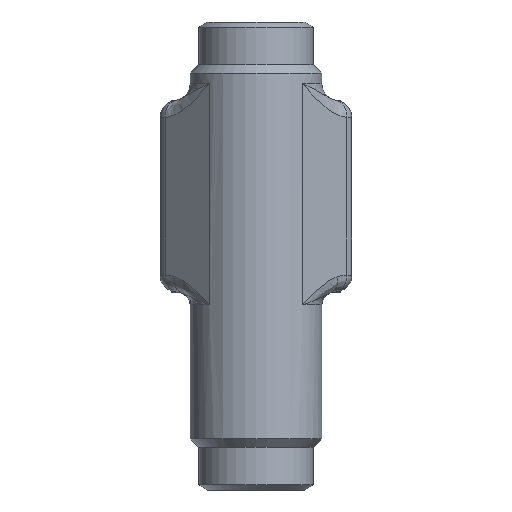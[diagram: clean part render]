
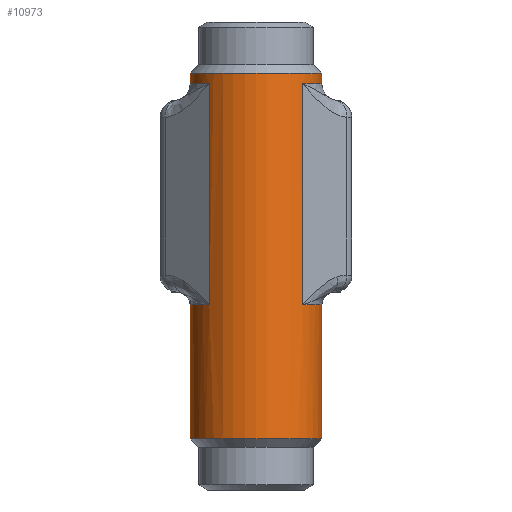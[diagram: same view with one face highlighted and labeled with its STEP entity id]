
A CAD part, front view. The second image highlights one B-rep face of the part: STEP entity #10973.
In plain terms, the highlighted cylindrical face has radius 15.5 mm (diameter 31 mm), a partial arc.
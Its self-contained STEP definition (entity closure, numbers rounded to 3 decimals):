
#16432 = CARTESIAN_POINT ( 'NONE',  ( -15.5, 0., -48. ) ) ;
#16440 = LINE ( 'NONE', #16442, #16443 ) ;
#16442 = CARTESIAN_POINT ( 'NONE',  ( 15.5, 0., -45. ) ) ;
#16443 = VECTOR ( 'NONE', #16444, 1000. ) ;
#16444 = DIRECTION ( 'NONE',  ( 0., 0., 1. ) ) ;
#16463 = CIRCLE ( 'NONE', #16464, 15.5 ) ;
#16464 = AXIS2_PLACEMENT_3D ( 'NONE', #16465, #16466, #16467 ) ;
#16465 = CARTESIAN_POINT ( 'NONE',  ( 0., 0., 4. ) ) ;
#16466 = DIRECTION ( 'NONE',  ( 0., 0., 1. ) ) ;
#16467 = DIRECTION ( 'NONE',  ( 1., 0., 0. ) ) ;
#97 = CARTESIAN_POINT ( 'NONE',  ( -15.5, 0., -69.245 ) ) ;
#221 = CARTESIAN_POINT ( 'NONE',  ( 10.96, -10.96, 4. ) ) ;
#235 = ORIENTED_EDGE ( 'NONE', *, *, #7129, .T. ) ;
#16610 = CIRCLE ( 'NONE', #16611, 15.5 ) ;
#16611 = AXIS2_PLACEMENT_3D ( 'NONE', #16612, #16613, #16614 ) ;
#16612 = CARTESIAN_POINT ( 'NONE',  ( 0., 0., -48. ) ) ;
#16613 = DIRECTION ( 'NONE',  ( 0., 0., -1. ) ) ;
#16614 = DIRECTION ( 'NONE',  ( 1., 0., 0. ) ) ;
#16781 = ORIENTED_EDGE ( 'NONE', *, *, #3720, .F. ) ;
#624 = VERTEX_POINT ( 'NONE', #15231 ) ;
#733 = ORIENTED_EDGE ( 'NONE', *, *, #13235, .F. ) ;
#1232 = EDGE_CURVE ( 'NONE', #11006, #9850, #15556, .T. ) ;
#1597 = ORIENTED_EDGE ( 'NONE', *, *, #1232, .T. ) ;
#1635 = EDGE_CURVE ( 'NONE', #2478, #15993, #15789, .T. ) ;
#1989 = ORIENTED_EDGE ( 'NONE', *, *, #1635, .T. ) ;
#1994 = LINE ( 'NONE', #1995, #1996 ) ;
#1995 = CARTESIAN_POINT ( 'NONE',  ( -15.5, 0., -45. ) ) ;
#1996 = VECTOR ( 'NONE', #1997, 1000. ) ;
#1997 = DIRECTION ( 'NONE',  ( 0., 0., 1. ) ) ;
#2068 = CARTESIAN_POINT ( 'NONE',  ( -10.96, -10.96, -48. ) ) ;
#2098 = ORIENTED_EDGE ( 'NONE', *, *, #2497, .T. ) ;
#2478 = VERTEX_POINT ( 'NONE', #16432 ) ;
#2497 = EDGE_CURVE ( 'NONE', #9739, #11006, #16440, .T. ) ;
#2591 = EDGE_CURVE ( 'NONE', #3444, #9739, #16463, .T. ) ;
#2695 = EDGE_CURVE ( 'NONE', #3550, #2478, #16610, .T. ) ;
#2951 = ORIENTED_EDGE ( 'NONE', *, *, #2591, .T. ) ;
#3057 = ORIENTED_EDGE ( 'NONE', *, *, #2695, .T. ) ;
#3291 = LINE ( 'NONE', #3292, #3293 ) ;
#3292 = CARTESIAN_POINT ( 'NONE',  ( -10.96, -10.96, -45. ) ) ;
#3293 = VECTOR ( 'NONE', #3294, 1000. ) ;
#3294 = DIRECTION ( 'NONE',  ( 0., 0., 1. ) ) ;
#3444 = VERTEX_POINT ( 'NONE', #221 ) ;
#3550 = VERTEX_POINT ( 'NONE', #2068 ) ;
#3720 = EDGE_CURVE ( 'NONE', #3550, #624, #3291, .T. ) ;
#4220 = VERTEX_POINT ( 'NONE', #9389 ) ;
#4221 = VERTEX_POINT ( 'NONE', #9390 ) ;
#4451 = LINE ( 'NONE', #4452, #4453 ) ;
#4452 = CARTESIAN_POINT ( 'NONE',  ( 10.96, -10.96, -45. ) ) ;
#4453 = VECTOR ( 'NONE', #4454, 1000. ) ;
#4454 = DIRECTION ( 'NONE',  ( 0., 0., 1. ) ) ;
#4824 = LINE ( 'NONE', #4825, #4826 ) ;
#4825 = CARTESIAN_POINT ( 'NONE',  ( -15.5, 0., -45. ) ) ;
#4826 = VECTOR ( 'NONE', #4827, 1000. ) ;
#4827 = DIRECTION ( 'NONE',  ( 0., 0., 1. ) ) ;
#6915 = VERTEX_POINT ( 'NONE', #13864 ) ;
#7129 = EDGE_CURVE ( 'NONE', #6915, #624, #14060, .T. ) ;
#8495 = EDGE_CURVE ( 'NONE', #9161, #3444, #4451, .T. ) ;
#8662 = ORIENTED_EDGE ( 'NONE', *, *, #8495, .T. ) ;
#8696 = ORIENTED_EDGE ( 'NONE', *, *, #14439, .T. ) ;
#9161 = VERTEX_POINT ( 'NONE', #14500 ) ;
#9200 = EDGE_CURVE ( 'NONE', #4220, #4221, #14517, .T. ) ;
#9375 = EDGE_CURVE ( 'NONE', #10244, #9161, #14572, .T. ) ;
#9389 = CARTESIAN_POINT ( 'NONE',  ( -15.5, 0., -79.5 ) ) ;
#9390 = CARTESIAN_POINT ( 'NONE',  ( 15.5, 0., -79.5 ) ) ;
#9561 = ORIENTED_EDGE ( 'NONE', *, *, #9200, .T. ) ;
#9739 = VERTEX_POINT ( 'NONE', #15218 ) ;
#9740 = ORIENTED_EDGE ( 'NONE', *, *, #9375, .T. ) ;
#9850 = VERTEX_POINT ( 'NONE', #15249 ) ;
#10224 = ORIENTED_EDGE ( 'NONE', *, *, #16182, .F. ) ;
#10244 = VERTEX_POINT ( 'NONE', #15481 ) ;
#10461 = EDGE_CURVE ( 'NONE', #10244, #14923, #15599, .T. ) ;
#10605 = LINE ( 'NONE', #10606, #10607 ) ;
#10606 = CARTESIAN_POINT ( 'NONE',  ( 15.5, 0., -45. ) ) ;
#10607 = VECTOR ( 'NONE', #10610, 1000. ) ;
#10610 = DIRECTION ( 'NONE',  ( 0., 0., 1. ) ) ;
#10734 = EDGE_LOOP ( 'NONE', ( #10224, #9561, #8696, #10825, #9740, #8662, #2951, #2098, #1597, #733, #235, #16781, #3057, #1989 ) ) ;
#10825 = ORIENTED_EDGE ( 'NONE', *, *, #10461, .F. ) ;
#10973 = ADVANCED_FACE ( 'NONE', ( #16082 ), #16083, .T. ) ;
#11006 = VERTEX_POINT ( 'NONE', #16120 ) ;
#13235 = EDGE_CURVE ( 'NONE', #6915, #9850, #4824, .T. ) ;
#13862 = CARTESIAN_POINT ( 'NONE',  ( 15.5, 0., -69.245 ) ) ;
#13864 = CARTESIAN_POINT ( 'NONE',  ( -15.5, 0., 4. ) ) ;
#14060 = CIRCLE ( 'NONE', #14062, 15.5 ) ;
#14062 = AXIS2_PLACEMENT_3D ( 'NONE', #14063, #14064, #14065 ) ;
#14063 = CARTESIAN_POINT ( 'NONE',  ( 0., 0., 4. ) ) ;
#14064 = DIRECTION ( 'NONE',  ( 0., 0., 1. ) ) ;
#14065 = DIRECTION ( 'NONE',  ( 1., 0., 0. ) ) ;
#14439 = EDGE_CURVE ( 'NONE', #4221, #14923, #10605, .T. ) ;
#14500 = CARTESIAN_POINT ( 'NONE',  ( 10.96, -10.96, -48. ) ) ;
#14517 = CIRCLE ( 'NONE', #14518, 15.5 ) ;
#14518 = AXIS2_PLACEMENT_3D ( 'NONE', #14519, #14520, #14521 ) ;
#14519 = CARTESIAN_POINT ( 'NONE',  ( 0., 0., -79.5 ) ) ;
#14520 = DIRECTION ( 'NONE',  ( 0., 0., 1. ) ) ;
#14521 = DIRECTION ( 'NONE',  ( -1., 0., 0. ) ) ;
#14572 = CIRCLE ( 'NONE', #14573, 15.5 ) ;
#14573 = AXIS2_PLACEMENT_3D ( 'NONE', #14574, #14575, #14576 ) ;
#14574 = CARTESIAN_POINT ( 'NONE',  ( 0., 0., -48. ) ) ;
#14575 = DIRECTION ( 'NONE',  ( 0., 0., -1. ) ) ;
#14576 = DIRECTION ( 'NONE',  ( 1., 0., 0. ) ) ;
#14923 = VERTEX_POINT ( 'NONE', #13862 ) ;
#15218 = CARTESIAN_POINT ( 'NONE',  ( 15.5, 0., 4. ) ) ;
#15231 = CARTESIAN_POINT ( 'NONE',  ( -10.96, -10.96, 4. ) ) ;
#15249 = CARTESIAN_POINT ( 'NONE',  ( -15.5, 0., 6.5 ) ) ;
#15481 = CARTESIAN_POINT ( 'NONE',  ( 15.5, 0., -48. ) ) ;
#15556 = CIRCLE ( 'NONE', #15557, 15.5 ) ;
#15557 = AXIS2_PLACEMENT_3D ( 'NONE', #15558, #15559, #15560 ) ;
#15558 = CARTESIAN_POINT ( 'NONE',  ( 0., 0., 6.5 ) ) ;
#15559 = DIRECTION ( 'NONE',  ( 0., 0., -1. ) ) ;
#15560 = DIRECTION ( 'NONE',  ( 1., 0., 0. ) ) ;
#15599 = LINE ( 'NONE', #15600, #15601 ) ;
#15600 = CARTESIAN_POINT ( 'NONE',  ( 15.5, 0., -69.245 ) ) ;
#15601 = VECTOR ( 'NONE', #15603, 1000. ) ;
#15603 = DIRECTION ( 'NONE',  ( 0., 0., -1. ) ) ;
#15789 = LINE ( 'NONE', #15790, #15791 ) ;
#15790 = CARTESIAN_POINT ( 'NONE',  ( -15.5, 0., -69.245 ) ) ;
#15791 = VECTOR ( 'NONE', #15792, 1000. ) ;
#15792 = DIRECTION ( 'NONE',  ( 0., 0., -1. ) ) ;
#15993 = VERTEX_POINT ( 'NONE', #97 ) ;
#16082 = FACE_OUTER_BOUND ( 'NONE', #10734, .T. ) ;
#16083 = CYLINDRICAL_SURFACE ( 'NONE', #16084, 15.5 ) ;
#16084 = AXIS2_PLACEMENT_3D ( 'NONE', #16085, #16086, #16093 ) ;
#16085 = CARTESIAN_POINT ( 'NONE',  ( 0., 0., -45. ) ) ;
#16086 = DIRECTION ( 'NONE',  ( 0., 0., 1. ) ) ;
#16093 = DIRECTION ( 'NONE',  ( 1., 0., 0. ) ) ;
#16120 = CARTESIAN_POINT ( 'NONE',  ( 15.5, 0., 6.5 ) ) ;
#16182 = EDGE_CURVE ( 'NONE', #4220, #15993, #1994, .T. ) ;
